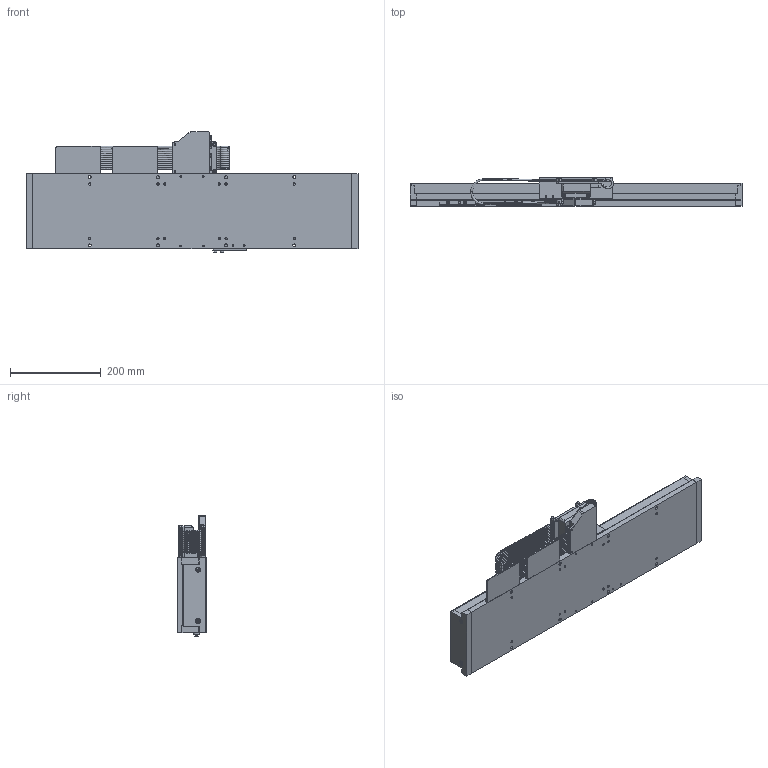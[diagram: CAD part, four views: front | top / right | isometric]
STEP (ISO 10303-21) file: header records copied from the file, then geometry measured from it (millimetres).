
FILE_DESCRIPTION (( 'STEP AP214' ), '1' );
FILE_NAME ('LM3-500-LM-EXPORT.STEP', '2024-05-06T20:35:29', ( 'lab' ), ( '' ), 'SwSTEP 2.0', 'SolidWorks 2018', '' );
FILE_SCHEMA (( 'AUTOMOTIVE_DESIGN' ));
Length unit declared in the file: millimetre
Products named in the file (19): 1000003_file_export38; 1000012_file_export32; LM3-500-LM-EXPORT; 1000018_file_export37; 1000010_file_export8; 1000002_file_export41; 1000009_file_export0; 1000008_file_export5; 1000014_file_export33; 1000001_file_export40; 1000004_file_export39; 1000005_file_export27; 1000017_file_export21; 1000016_file_export36; 1000007_file_export4; 1000011_file_export14; 1000006_file_export23; 1000013_file_export29; 1000015_file_export35
Assembly tree (42 placements, depth 2):
  LM3-500-LM-EXPORT
    1000007_file_export4  x4
    1000008_file_export5
    1000009_file_export0
    1000010_file_export8
    1000011_file_export14  x8
    1000012_file_export32
    1000013_file_export29  x4
    1000014_file_export33  x2
    1000015_file_export35  x6
    1000016_file_export36  x3
    1000017_file_export21  x2
    1000018_file_export37
    1000003_file_export38  x2
    1000005_file_export27  x2
    1000004_file_export39
    1000002_file_export41
    1000001_file_export40
    1000006_file_export23
Bounding box: 730 x 62 x 266 mm (x, y, z)
Volume: 6069025 mm3; surface area: 722100.9 mm2
Topology: 98 solids, 98 shells, 3119 faces, 7171 edges, 4324 vertices
Faces by surface type: plane 1144, cylinder 874, bspline 448, cone 366, torus 287
Entity records: 120827 total; most frequent: CARTESIAN_POINT 56606, DIRECTION 12075, ORIENTED_EDGE 11530, EDGE_CURVE 5765, AXIS2_PLACEMENT_3D 4774, VERTEX_POINT 3543, EDGE_LOOP 2856, CIRCLE 2650
